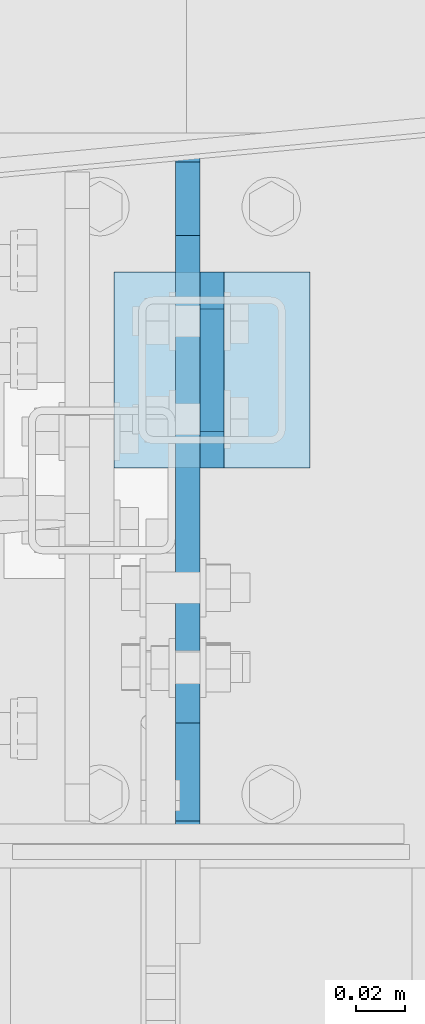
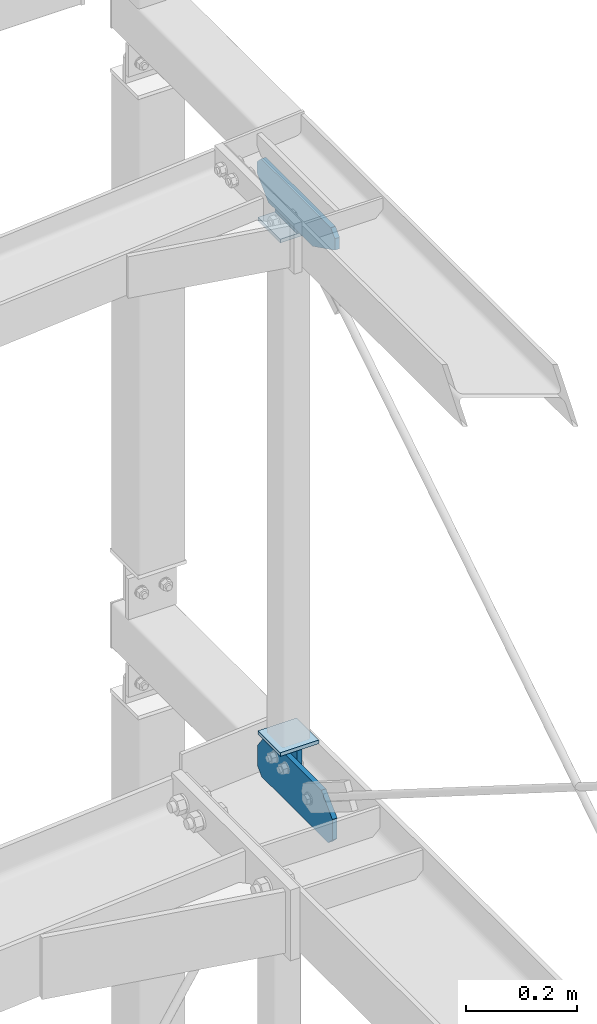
# One storey, part 190 of 271: 6 plates, 3 elements without a shape of their own.
"""IFC2X3 building model written with IfcOpenShell, lengths in millimetres."""

from ifc_helpers import new_model, si_unit, frame, origin_with_axes, place, context, subcontext, project, spatial, polyline, outline, extrude, material, type_object, element, aggregate, save


model = new_model("IFC2X3")

# Units and contexts
model_context = context("Model", 3, precision=1e-05, world=origin_with_axes())
body_context = subcontext(model_context, "Body", "Model", "MODEL_VIEW")
ifc_project = project(units=[si_unit("LENGTHUNIT", "METRE", prefix="MILLI"), si_unit("AREAUNIT", "SQUARE_METRE"), si_unit("VOLUMEUNIT", "CUBIC_METRE"), si_unit("MASSUNIT", "GRAM", prefix="KILO"), si_unit("TIMEUNIT", "SECOND"), si_unit("PLANEANGLEUNIT", "RADIAN"), si_unit("SOLIDANGLEUNIT", "STERADIAN"), si_unit("THERMODYNAMICTEMPERATUREUNIT", "DEGREE_CELSIUS"), si_unit("LUMINOUSINTENSITYUNIT", "LUMEN")], contexts=[model_context])

# Site, building, storey
site_placement = place(None, origin_with_axes())
site = spatial("IfcSite", under=ifc_project, at=site_placement, Name="Undefined", CompositionType="ELEMENT")
building_placement = place(site_placement, origin_with_axes())
building = spatial("IfcBuilding", under=site, at=building_placement, Name="Undefined", CompositionType="ELEMENT")
storey_placement = place(building_placement, origin_with_axes())
storey = spatial("IfcBuildingStorey", under=building, at=storey_placement, Name="Undefined", CompositionType="ELEMENT", Elevation=0.0)

# Assembly, plates
assembly_1_placement = place(storey_placement, origin_with_axes())
assembly_1 = element("IfcElementAssembly", 1, at=assembly_1_placement, inside=storey, AssemblyPlace="NOTDEFINED", PredefinedType="RIGID_FRAME")
ifc_material = material(Name="STEEL/S355JR")
plate_type_1 = type_object("IfcPlateType", Name="BL10*70", PredefinedType="NOTDEFINED")
plate_1_placement = place(assembly_1_placement, frame((12618.751374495, 4377.19355050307, 19956.699999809), z_axis=(1.0, 0.0, 0.0), x_axis=(0.0, -0.707106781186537, 0.707106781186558)))
plate_1 = element("IfcPlate", 2, at=plate_1_placement, type_object=plate_type_1, material=ifc_material, Name="BLACHA", ObjectType="BL10*70", context=body_context, shape_type="SweptSolid", body=[
    extrude(outline(polyline([(0.0, 0.0), (21.2132034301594, 1.09139364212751e-11), (56.5685424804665, 35.3553390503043), (56.568542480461, 56.5685424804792), (17.6776695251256, 95.4594192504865), (-38.890872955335, 38.8908729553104), (0.0, 0.0)])), frame((0.0, 0.0, -5.0), z_axis=(0.0, 0.0, 1.0), x_axis=(1.0, 0.0, 0.0)), (0.0, 0.0, 1.0), 10.0),
])
plate_2_placement = place(assembly_1_placement, frame((12618.751374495, 4297.19355050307, 18712.649999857), z_axis=(1.0, 0.0, 0.0), x_axis=(0.0, 0.707106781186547, -0.707106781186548)))
plate_2 = element("IfcPlate", 3, at=plate_2_placement, type_object=plate_type_1, material=ifc_material, Name="BLACHA", ObjectType="BL10*70", context=body_context, shape_type="SweptSolid", body=[
    extrude(outline(polyline([(0.0, 0.0), (21.2132034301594, 1.09139364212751e-11), (56.5685424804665, 35.3553390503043), (56.568542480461, 56.5685424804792), (17.6776695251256, 95.4594192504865), (-38.890872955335, 38.8908729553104), (0.0, 0.0)])), frame((0.0, 0.0, -5.0), z_axis=(0.0, 0.0, 1.0), x_axis=(1.0, 0.0, 0.0)), (0.0, 0.0, 1.0), 10.0),
])

# Assembly, plate
assembly_2_placement = place(storey_placement, origin_with_axes())
assembly_2 = element("IfcElementAssembly", 4, at=assembly_2_placement, inside=storey, AssemblyPlace="NOTDEFINED", PredefinedType="RIGID_FRAME")
plate_type_2 = type_object("IfcPlateType", Name="BL10*100", PredefinedType="NOTDEFINED")
plate_3_placement = place(assembly_2_placement, frame((12608.751374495, 4153.19355050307, 18647.649999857), z_axis=(1.0, 0.0, 0.0), x_axis=(0.0, 1.0, 0.0)))
plate_3 = element("IfcPlate", 5, at=plate_3_placement, type_object=plate_type_2, material=ifc_material, Name="BLACHA", ObjectType="BL10*100", context=body_context, shape_type="SweptSolid", body=[
    extrude(outline(polyline([(0.0, 15.0), (15.0, -1.59872115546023e-14), (254.0, -1.4210854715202e-14), (269.0, 15.0), (269.0, 60.0000000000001), (239.0, 100.0), (40.0, 100.0), (0.0, 60.0), (0.0, 15.0)])), frame((0.0, 0.0, -5.0), z_axis=(0.0, 0.0, 1.0), x_axis=(1.0, 0.0, 0.0)), (0.0, 0.0, 1.0), 10.0),
])
aggregate(assembly_2, [plate_3])

# Plate
plate_type_3 = type_object("IfcPlateType", Name="BL8*80", PredefinedType="NOTDEFINED")
plate_4_placement = place(assembly_1_placement, frame((12578.751374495, 4377.19355050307, 19897.699999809), z_axis=(0.0, 0.0, 1.0), x_axis=(0.0, -1.0, 0.0)))
plate_4 = element("IfcPlate", 6, at=plate_4_placement, type_object=plate_type_3, material=ifc_material, Name="BLACHA", ObjectType="BL8*80", context=body_context, shape_type="SweptSolid", body=[
    extrude(outline(polyline([(0.0, 0.0), (80.0, 0.0), (80.0, 80.0), (0.0, 80.0), (0.0, 0.0)])), frame((0.0, 0.0, -4.0), z_axis=(0.0, 0.0, 1.0), x_axis=(1.0, 0.0, 0.0)), (0.0, 0.0, 1.0), 8.0),
])

plate_5_placement = place(assembly_1_placement, frame((12578.751374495, 4297.19355050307, 18771.649999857), z_axis=(0.0, 0.0, -1.0), x_axis=(0.0, 1.0, 0.0)))
plate_5 = element("IfcPlate", 7, at=plate_5_placement, type_object=plate_type_3, material=ifc_material, Name="BLACHA", ObjectType="BL8*80", context=body_context, shape_type="SweptSolid", body=[
    extrude(outline(polyline([(0.0, 0.0), (80.0, 0.0), (80.0, 80.0), (0.0, 80.0), (0.0, 0.0)])), frame((0.0, 0.0, -4.0), z_axis=(0.0, 0.0, 1.0), x_axis=(1.0, 0.0, 0.0)), (0.0, 0.0, 1.0), 8.0),
])

aggregate(assembly_1, [plate_4, plate_1, plate_5, plate_2])

# Assembly, plate
assembly_3_placement = place(storey_placement, origin_with_axes())
assembly_3 = element("IfcElementAssembly", 8, at=assembly_3_placement, inside=storey, AssemblyPlace="NOTDEFINED", PredefinedType="RIGID_FRAME")
plate_type_4 = type_object("IfcPlateType", Name="BL10*80", PredefinedType="NOTDEFINED")
plate_6_placement = place(assembly_3_placement, frame((12608.751374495, 4424.19355050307, 20001.699999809), z_axis=(1.0, 0.0, 0.0), x_axis=(0.0, -1.0, 0.0)))
plate_6 = element("IfcPlate", 9, at=plate_6_placement, type_object=plate_type_4, material=ifc_material, Name="BLACHA", ObjectType="BL10*80", context=body_context, shape_type="SweptSolid", body=[
    extrude(outline(polyline([(0.0, 15.0), (15.0, -1.59872115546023e-14), (265.0, 0.0), (280.0, 15.0), (280.0, 40.0000000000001), (200.0, 80.0), (40.0, 80.0), (0.0, 40.0), (0.0, 15.0)])), frame((0.0, 0.0, -5.0), z_axis=(0.0, 0.0, 1.0), x_axis=(1.0, 0.0, 0.0)), (0.0, 0.0, 1.0), 10.0),
])
aggregate(assembly_3, [plate_6])

save(model, "model.ifc")
